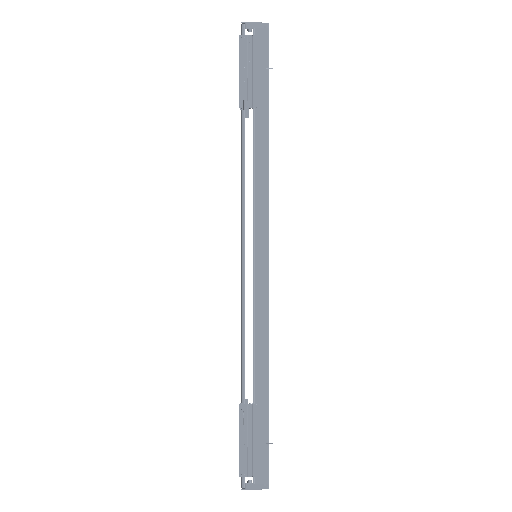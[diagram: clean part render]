
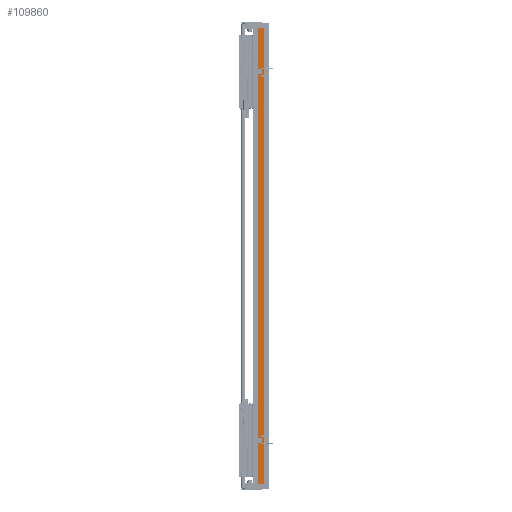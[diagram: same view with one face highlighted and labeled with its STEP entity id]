
A CAD part, left-side view. The second image highlights one B-rep face of the part: STEP entity #109860.
In plain terms, the highlighted planar face has unit normal (-1, 0, 0).
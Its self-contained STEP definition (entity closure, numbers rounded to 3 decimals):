
#9833 = EDGE_CURVE ( 'NONE', #140246, #10121, #139187, .T. ) ;
#10121 = VERTEX_POINT ( 'NONE', #74521 ) ;
#11018 = VECTOR ( 'NONE', #114221, 1000. ) ;
#11659 = ORIENTED_EDGE ( 'NONE', *, *, #9833, .T. ) ;
#12571 = CARTESIAN_POINT ( 'NONE',  ( -97.5, 36.95, 780. ) ) ;
#12792 = LINE ( 'NONE', #154139, #118825 ) ;
#13609 = DIRECTION ( 'NONE',  ( 0., 0., -1. ) ) ;
#24659 = PLANE ( 'NONE',  #134745 ) ;
#26023 = EDGE_CURVE ( 'NONE', #155568, #130058, #12792, .T. ) ;
#37067 = CARTESIAN_POINT ( 'NONE',  ( -97.5, 36.95, -780. ) ) ;
#38162 = LINE ( 'NONE', #12571, #11018 ) ;
#48799 = VECTOR ( 'NONE', #76351, 1000. ) ;
#51446 = ORIENTED_EDGE ( 'NONE', *, *, #111773, .F. ) ;
#62655 = DIRECTION ( 'NONE',  ( 1., 0., 0. ) ) ;
#74521 = CARTESIAN_POINT ( 'NONE',  ( -97.5, 36.95, -780. ) ) ;
#75084 = CARTESIAN_POINT ( 'NONE',  ( -97.5, 36.95, 780. ) ) ;
#76351 = DIRECTION ( 'NONE',  ( 0., 0., -1. ) ) ;
#79212 = VECTOR ( 'NONE', #113127, 1000. ) ;
#83520 = CARTESIAN_POINT ( 'NONE',  ( -97.5, 36.95, 780. ) ) ;
#84855 = CARTESIAN_POINT ( 'NONE',  ( -97.5, 14.45, -780. ) ) ;
#94658 = ORIENTED_EDGE ( 'NONE', *, *, #142036, .T. ) ;
#97453 = FACE_OUTER_BOUND ( 'NONE', #159417, .T. ) ;
#101903 = CARTESIAN_POINT ( 'NONE',  ( -97.5, 14.45, 780. ) ) ;
#108244 = LINE ( 'NONE', #37067, #79212 ) ;
#109860 = ADVANCED_FACE ( 'NONE', ( #97453 ), #24659, .F. ) ;
#111773 = EDGE_CURVE ( 'NONE', #140246, #155568, #38162, .T. ) ;
#113101 = DIRECTION ( 'NONE',  ( 0., 1., 0. ) ) ;
#113127 = DIRECTION ( 'NONE',  ( 0., -1., 0. ) ) ;
#114221 = DIRECTION ( 'NONE',  ( 0., -1., 0. ) ) ;
#118825 = VECTOR ( 'NONE', #13609, 1000. ) ;
#120873 = ORIENTED_EDGE ( 'NONE', *, *, #26023, .F. ) ;
#130058 = VERTEX_POINT ( 'NONE', #84855 ) ;
#134745 = AXIS2_PLACEMENT_3D ( 'NONE', #75084, #62655, #113101 ) ;
#139187 = LINE ( 'NONE', #151618, #48799 ) ;
#140246 = VERTEX_POINT ( 'NONE', #83520 ) ;
#142036 = EDGE_CURVE ( 'NONE', #10121, #130058, #108244, .T. ) ;
#151618 = CARTESIAN_POINT ( 'NONE',  ( -97.5, 36.95, 780. ) ) ;
#154139 = CARTESIAN_POINT ( 'NONE',  ( -97.5, 14.45, 780. ) ) ;
#155568 = VERTEX_POINT ( 'NONE', #101903 ) ;
#159417 = EDGE_LOOP ( 'NONE', ( #94658, #120873, #51446, #11659 ) ) ;
